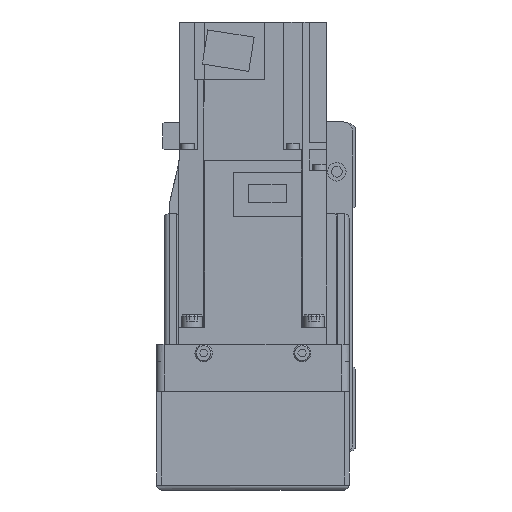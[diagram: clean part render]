
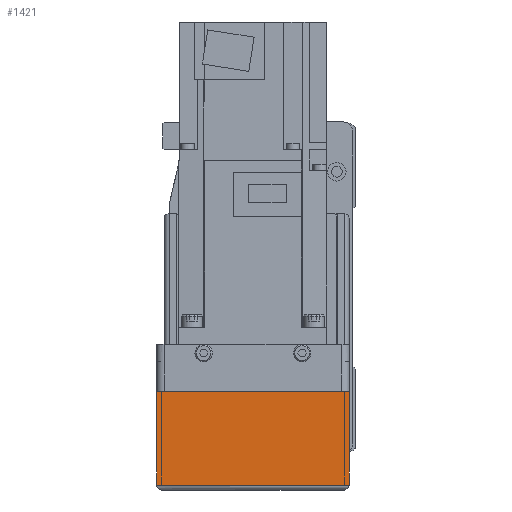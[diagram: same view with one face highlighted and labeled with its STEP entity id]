
A CAD part, left-side view. The second image highlights one B-rep face of the part: STEP entity #1421.
In plain terms, the highlighted planar face has unit normal (-1, 0, 0).
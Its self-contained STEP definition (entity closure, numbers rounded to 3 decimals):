
#1421 = ADVANCED_FACE( '', ( #3630 ), #3631, .F. );
#3630 = FACE_OUTER_BOUND( '', #6875, .T. );
#3631 = PLANE( '', #6876 );
#6875 = EDGE_LOOP( '', ( #10843, #10844, #10845, #10846 ) );
#6876 = AXIS2_PLACEMENT_3D( '', #10847, #10848, #10849 );
#10843 = ORIENTED_EDGE( '', *, *, #19115, .F. );
#10844 = ORIENTED_EDGE( '', *, *, #19116, .F. );
#10845 = ORIENTED_EDGE( '', *, *, #19117, .T. );
#10846 = ORIENTED_EDGE( '', *, *, #19118, .F. );
#10847 = CARTESIAN_POINT( '', ( -158., 36., 7. ) );
#10848 = DIRECTION( '', ( 1., 0., 0. ) );
#10849 = DIRECTION( '', ( 0., 0., -1. ) );
#19115 = EDGE_CURVE( '', #22046, #21881, #23061, .T. );
#19116 = EDGE_CURVE( '', #23062, #22046, #23063, .T. );
#19117 = EDGE_CURVE( '', #23062, #23064, #23065, .T. );
#19118 = EDGE_CURVE( '', #21881, #23064, #23066, .T. );
#21881 = VERTEX_POINT( '', #26959 );
#22046 = VERTEX_POINT( '', #27204 );
#23061 = LINE( '', #28651, #28652 );
#23062 = VERTEX_POINT( '', #28653 );
#23063 = LINE( '', #28654, #28655 );
#23064 = VERTEX_POINT( '', #28656 );
#23065 = LINE( '', #28657, #28658 );
#23066 = LINE( '', #28659, #28660 );
#26959 = CARTESIAN_POINT( '', ( -158., -39., -12.1 ) );
#27204 = CARTESIAN_POINT( '', ( -158., 39., -12.1 ) );
#28651 = CARTESIAN_POINT( '', ( -158., 50., -12.1 ) );
#28652 = VECTOR( '', #35225, 1000. );
#28653 = CARTESIAN_POINT( '', ( -158., 39., -50. ) );
#28654 = CARTESIAN_POINT( '', ( -158., 39., -50. ) );
#28655 = VECTOR( '', #35226, 1000. );
#28656 = CARTESIAN_POINT( '', ( -158., -39., -50. ) );
#28657 = CARTESIAN_POINT( '', ( -158., 40., -50. ) );
#28658 = VECTOR( '', #35227, 1000. );
#28659 = CARTESIAN_POINT( '', ( -158., -39., -12.1 ) );
#28660 = VECTOR( '', #35228, 1000. );
#35225 = DIRECTION( '', ( 0., -1., 0. ) );
#35226 = DIRECTION( '', ( 0., 0., 1. ) );
#35227 = DIRECTION( '', ( 0., -1., 0. ) );
#35228 = DIRECTION( '', ( 0., 0., -1. ) );
